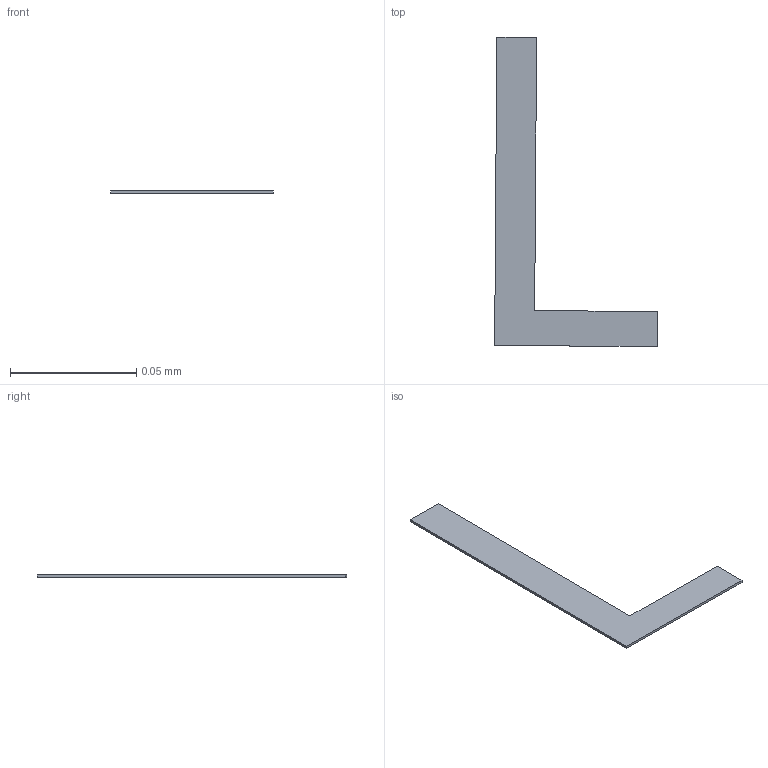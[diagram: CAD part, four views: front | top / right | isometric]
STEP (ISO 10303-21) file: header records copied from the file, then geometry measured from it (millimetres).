
FILE_DESCRIPTION(/* description */ ('STEP AP242 Edition 2','CAx-IF Rec.Pracs.---Representation and Presentation of Product Manufacturing Information (PMI)---4.0---2014-10-13','CAx-IF Rec.Pracs.---3D Tessellated Geometry---0.4---2014-09-14','2;1','CAx-IF Rec.Pracs.---User Defined Attributes---1.5---2016-08-15'),/* implementation_level */ '2;1');
FILE_NAME(/* name */ 'Assembly 1 - SW-SMD_L3.9-W3.0-P4.45~SW-SMD_L3.9-W2.9-H2.0-LS4.8~nxQB (9)',/* time_stamp */ '2026-04-02T09:55:26Z',/* author */ (''),/* organization */ (''),/* preprocessor_version */ 'ST-DEVELOPER v20',/* originating_system */ 'ONSHAPE BY PTC INC, 1.212',/* authorisation */ ' ');
FILE_SCHEMA (('AP242_MANAGED_MODEL_BASED_3D_ENGINEERING_MIM_LF { 1 0 10303 442 3 1 4 }'));
Length unit declared in the file: metre
Products named in the file (1): SW-SMD_L3.9-W3.0-P4.45~SW-SMD_L3.9-W2.9-H2.0-LS4.8~nxQB
Bounding box: 0.06 x 0.12 x 0 mm (x, y, z)
Volume: 0 mm3; surface area: 0 mm2
Topology: 1 solids, 1 shells, 8 faces, 18 edges, 12 vertices
Faces by surface type: plane 8
Entity records: 301 total; most frequent: CARTESIAN_POINT 39, ORIENTED_EDGE 36, DIRECTION 36, EDGE_CURVE 18, LINE 18, VECTOR 18, VERTEX_POINT 12, PRESENTATION_STYLE_ASSIGNMENT 9
